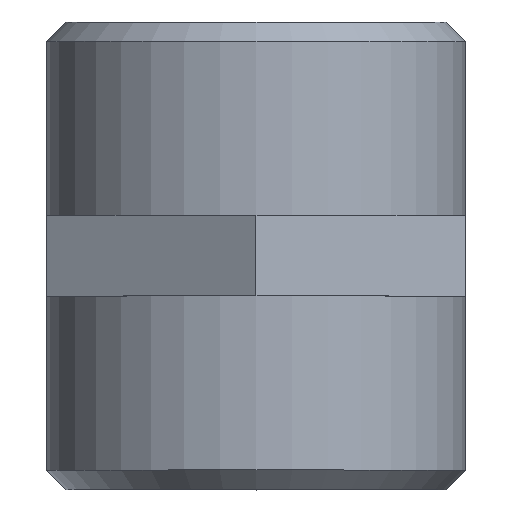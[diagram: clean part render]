
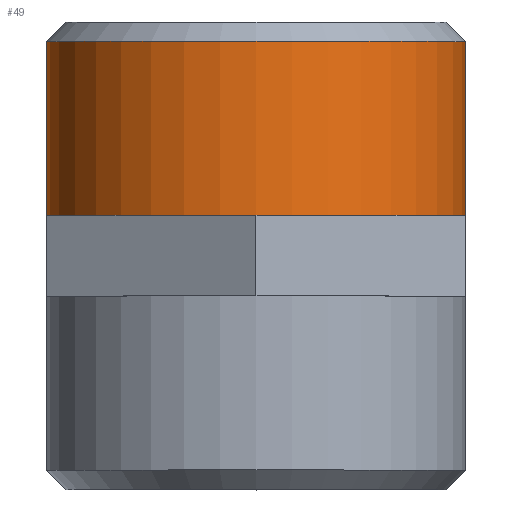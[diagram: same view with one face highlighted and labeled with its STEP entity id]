
A CAD part, top view. The second image highlights one B-rep face of the part: STEP entity #49.
In plain terms, the highlighted cylindrical face has radius 13 mm (diameter 26 mm), a full revolution.
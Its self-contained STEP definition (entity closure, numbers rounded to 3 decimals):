
#49=ADVANCED_FACE('',(#116,#118),#120,.T.);
#116=FACE_BOUND('',#117,.T.);
#117=EDGE_LOOP('',(#288,#289,#290,#291,#292,#293));
#118=FACE_OUTER_BOUND('',#119,.T.);
#119=EDGE_LOOP('',(#294));
#120=CYLINDRICAL_SURFACE('',#121,13.);
#121=AXIS2_PLACEMENT_3D('',#122,#123,#124);
#122=CARTESIAN_POINT('',(0.,2.5,0.));
#123=DIRECTION('',(0.,1.,0.));
#124=DIRECTION('',(-1.,0.,0.));
#288=ORIENTED_EDGE('',*,*,#386,.T.);
#289=ORIENTED_EDGE('',*,*,#387,.T.);
#290=ORIENTED_EDGE('',*,*,#388,.T.);
#291=ORIENTED_EDGE('',*,*,#389,.T.);
#292=ORIENTED_EDGE('',*,*,#390,.T.);
#293=ORIENTED_EDGE('',*,*,#391,.T.);
#294=ORIENTED_EDGE('',*,*,#384,.F.);
#384=EDGE_CURVE('',#440,#440,#441,.T.);
#386=EDGE_CURVE('',#444,#445,#446,.T.);
#387=EDGE_CURVE('',#445,#447,#448,.T.);
#388=EDGE_CURVE('',#447,#449,#450,.T.);
#389=EDGE_CURVE('',#449,#451,#452,.T.);
#390=EDGE_CURVE('',#451,#453,#454,.T.);
#391=EDGE_CURVE('',#453,#444,#455,.T.);
#440=VERTEX_POINT('',#540);
#441=CIRCLE('',#541,13.);
#444=VERTEX_POINT('',#550);
#445=VERTEX_POINT('',#551);
#446=CIRCLE('',#552,13.);
#447=VERTEX_POINT('',#556);
#448=CIRCLE('',#557,13.);
#449=VERTEX_POINT('',#561);
#450=CIRCLE('',#562,13.);
#451=VERTEX_POINT('',#566);
#452=CIRCLE('',#567,13.);
#453=VERTEX_POINT('',#571);
#454=CIRCLE('',#572,13.);
#455=CIRCLE('',#576,13.);
#540=CARTESIAN_POINT('',(-13.,13.3,0.));
#541=AXIS2_PLACEMENT_3D('',#542,#543,#544);
#542=CARTESIAN_POINT('',(0.,13.3,0.));
#543=DIRECTION('',(0.,1.,0.));
#544=DIRECTION('',(-1.,0.,0.));
#550=CARTESIAN_POINT('',(13.,2.5,0.));
#551=CARTESIAN_POINT('',(6.5,2.5,-11.258));
#552=AXIS2_PLACEMENT_3D('',#553,#554,#555);
#553=CARTESIAN_POINT('',(0.,2.5,0.));
#554=DIRECTION('',(0.,1.,0.));
#555=DIRECTION('',(1.,0.,0.));
#556=CARTESIAN_POINT('',(-6.5,2.5,-11.258));
#557=AXIS2_PLACEMENT_3D('',#558,#559,#560);
#558=CARTESIAN_POINT('',(0.,2.5,0.));
#559=DIRECTION('',(0.,1.,0.));
#560=DIRECTION('',(0.5,0.,-0.866));
#561=CARTESIAN_POINT('',(-13.,2.5,0.));
#562=AXIS2_PLACEMENT_3D('',#563,#564,#565);
#563=CARTESIAN_POINT('',(0.,2.5,0.));
#564=DIRECTION('',(0.,1.,0.));
#565=DIRECTION('',(-0.5,0.,-0.866));
#566=CARTESIAN_POINT('',(-6.5,2.5,11.258));
#567=AXIS2_PLACEMENT_3D('',#568,#569,#570);
#568=CARTESIAN_POINT('',(0.,2.5,0.));
#569=DIRECTION('',(0.,1.,0.));
#570=DIRECTION('',(-1.,0.,0.));
#571=CARTESIAN_POINT('',(6.5,2.5,11.258));
#572=AXIS2_PLACEMENT_3D('',#573,#574,#575);
#573=CARTESIAN_POINT('',(0.,2.5,0.));
#574=DIRECTION('',(0.,1.,0.));
#575=DIRECTION('',(-0.5,0.,0.866));
#576=AXIS2_PLACEMENT_3D('',#577,#578,#579);
#577=CARTESIAN_POINT('',(0.,2.5,0.));
#578=DIRECTION('',(0.,1.,0.));
#579=DIRECTION('',(0.5,0.,0.866));
